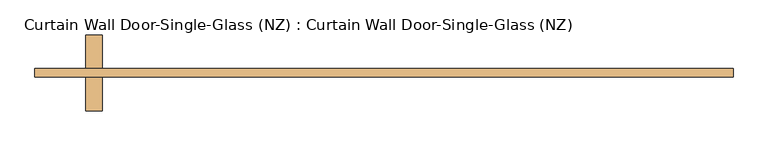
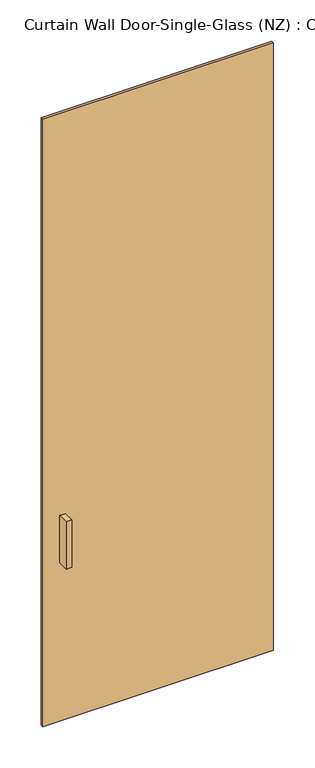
"""IFC4 building model written with IfcOpenShell, lengths in millimetres: door geometry, Curtain Wall Door-Single-Glass (NZ) : Curtain Wall Door-Single-Glass (NZ)."""

from ifc_helpers import new_model, si_unit, frame, origin, origin_with_axes, place, context, project, spatial, polyline, outline, extrude, source, transform, mapped, element, save


def curtain_wall_door_single_glass_nz_curtain_wall_door_single_2bf20aac(model_context):
    return source(origin(), model_context, "Body", "SweptSolid", [
        extrude(outline(polyline([(525.0, 51.0), (525.0, 38.3), (-525.0, 38.3), (-525.0, 51.0), (525.0, 51.0)])), origin_with_axes(), (0.0, 0.0, 1.0), 2925.0),
        extrude(outline(polyline([(-448.8, 101.8), (-423.4, 101.8), (-423.4, 51.0), (-448.8, 51.0), (-448.8, 101.8)])), frame((0.0, 0.0, 762.0), z_axis=(0.0, 0.0, 1.0), x_axis=(1.0, 0.0, 0.0)), (0.0, 0.0, 1.0), 228.6),
        extrude(outline(polyline([(-423.4, -12.5), (-448.8, -12.5), (-448.8, 38.3), (-423.4, 38.3), (-423.4, -12.5)])), frame((0.0, 0.0, 762.0), z_axis=(0.0, 0.0, 1.0), x_axis=(1.0, 0.0, 0.0)), (0.0, 0.0, 1.0), 228.6),
    ])


if __name__ == "__main__":
    model = new_model("IFC4")
    model_context = context("Model", 3, world=origin())
    ifc_project = project(units=[si_unit("LENGTHUNIT", "METRE", prefix="MILLI")], contexts=[model_context])
    site = spatial("IfcSite", under=ifc_project)
    building = spatial("IfcBuilding", under=site)
    placement = place(None, origin())
    curtain_wall_door_single_glass_nz_curtain_wall_door_single_shape = curtain_wall_door_single_glass_nz_curtain_wall_door_single_2bf20aac(model_context)
    element("IfcDoor", 1, ObjectType="Curtain Wall Door-Single-Glass (NZ) : Curtain Wall Door-Single-Glass (NZ)", at=placement, inside=building, context=model_context, shape_type="MappedRepresentation", body=[
        mapped(curtain_wall_door_single_glass_nz_curtain_wall_door_single_shape, transform((0.0, 0.0, 0.0), x_axis=(1.0, 0.0, 0.0), y_axis=(0.0, 1.0, 0.0), z_axis=(0.0, 0.0, 1.0))),
    ])
    save(model, "model.ifc")
